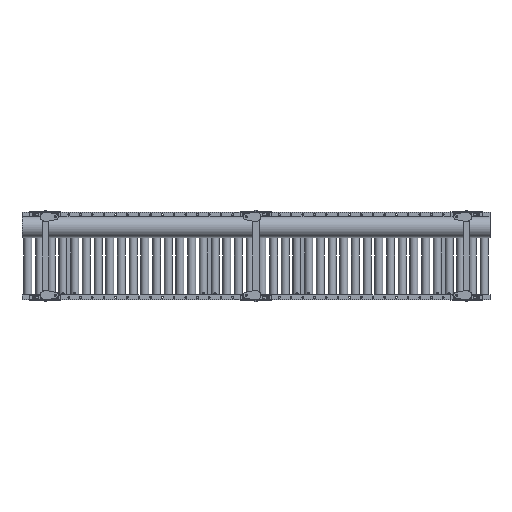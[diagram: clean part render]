
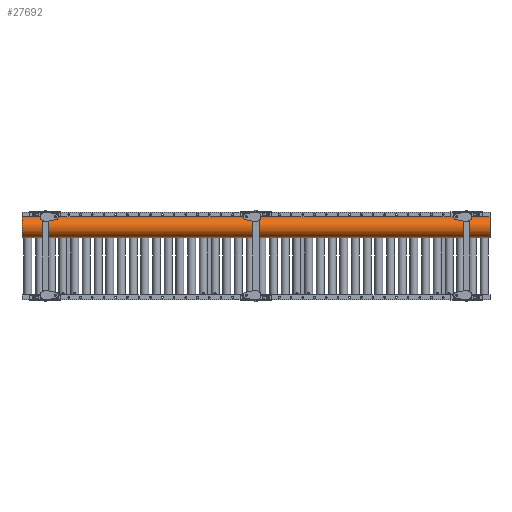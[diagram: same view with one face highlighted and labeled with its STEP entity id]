
A CAD part, front view. The second image highlights one B-rep face of the part: STEP entity #27692.
In plain terms, the highlighted cylindrical face has radius 66.89 mm (diameter 133.78 mm), a partial arc.
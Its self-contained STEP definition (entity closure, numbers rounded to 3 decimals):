
#11607 = ORIENTED_EDGE ( 'NONE', *, *, #114155, .F. ) ;
#19111 = LINE ( 'NONE', #32256, #46812 ) ;
#19301 = AXIS2_PLACEMENT_3D ( 'NONE', #30694, #148107, #59663 ) ;
#21883 = DIRECTION ( 'NONE',  ( 1., 0., 0. ) ) ;
#26449 = DIRECTION ( 'NONE',  ( 1., 0., 0. ) ) ;
#27692 = ADVANCED_FACE ( 'NONE', ( #71421 ), #73632, .T. ) ;
#30694 = CARTESIAN_POINT ( 'NONE',  ( -3177.652, -150., 185.11 ) ) ;
#32256 = CARTESIAN_POINT ( 'NONE',  ( -3177.652, -150., 252. ) ) ;
#33181 = CARTESIAN_POINT ( 'NONE',  ( -3000., -150., 118.22 ) ) ;
#42638 = CARTESIAN_POINT ( 'NONE',  ( 0., -150., 118.22 ) ) ;
#46812 = VECTOR ( 'NONE', #103777, 1000. ) ;
#48955 = LINE ( 'NONE', #101699, #138961 ) ;
#49490 = DIRECTION ( 'NONE',  ( 1., 0., 0. ) ) ;
#53661 = VERTEX_POINT ( 'NONE', #33181 ) ;
#55062 = ORIENTED_EDGE ( 'NONE', *, *, #160827, .F. ) ;
#59663 = DIRECTION ( 'NONE',  ( 0., 0., -1. ) ) ;
#63332 = EDGE_LOOP ( 'NONE', ( #11607, #118333, #168381, #55062 ) ) ;
#63937 = CARTESIAN_POINT ( 'NONE',  ( -3000., -150., 252. ) ) ;
#71421 = FACE_OUTER_BOUND ( 'NONE', #63332, .T. ) ;
#71777 = EDGE_CURVE ( 'NONE', #72675, #53661, #166577, .T. ) ;
#72675 = VERTEX_POINT ( 'NONE', #63937 ) ;
#73632 = CYLINDRICAL_SURFACE ( 'NONE', #19301, 66.89 ) ;
#75010 = VERTEX_POINT ( 'NONE', #42638 ) ;
#78916 = CIRCLE ( 'NONE', #148975, 66.89 ) ;
#82957 = CARTESIAN_POINT ( 'NONE',  ( 0., -150., 252. ) ) ;
#96634 = EDGE_CURVE ( 'NONE', #53661, #75010, #48955, .T. ) ;
#101699 = CARTESIAN_POINT ( 'NONE',  ( -3177.652, -150., 118.22 ) ) ;
#103777 = DIRECTION ( 'NONE',  ( 1., 0., 0. ) ) ;
#114155 = EDGE_CURVE ( 'NONE', #72675, #182178, #19111, .T. ) ;
#118333 = ORIENTED_EDGE ( 'NONE', *, *, #71777, .T. ) ;
#136044 = AXIS2_PLACEMENT_3D ( 'NONE', #141158, #21883, #184302 ) ;
#138961 = VECTOR ( 'NONE', #26449, 1000. ) ;
#140452 = CARTESIAN_POINT ( 'NONE',  ( 0., -150., 185.11 ) ) ;
#141158 = CARTESIAN_POINT ( 'NONE',  ( -3000., -150., 185.11 ) ) ;
#148107 = DIRECTION ( 'NONE',  ( 1., 0., 0. ) ) ;
#148975 = AXIS2_PLACEMENT_3D ( 'NONE', #140452, #49490, #152730 ) ;
#152730 = DIRECTION ( 'NONE',  ( 0., 0., 1. ) ) ;
#160827 = EDGE_CURVE ( 'NONE', #182178, #75010, #78916, .T. ) ;
#166577 = CIRCLE ( 'NONE', #136044, 66.89 ) ;
#168381 = ORIENTED_EDGE ( 'NONE', *, *, #96634, .T. ) ;
#182178 = VERTEX_POINT ( 'NONE', #82957 ) ;
#184302 = DIRECTION ( 'NONE',  ( 0., 0., 1. ) ) ;
